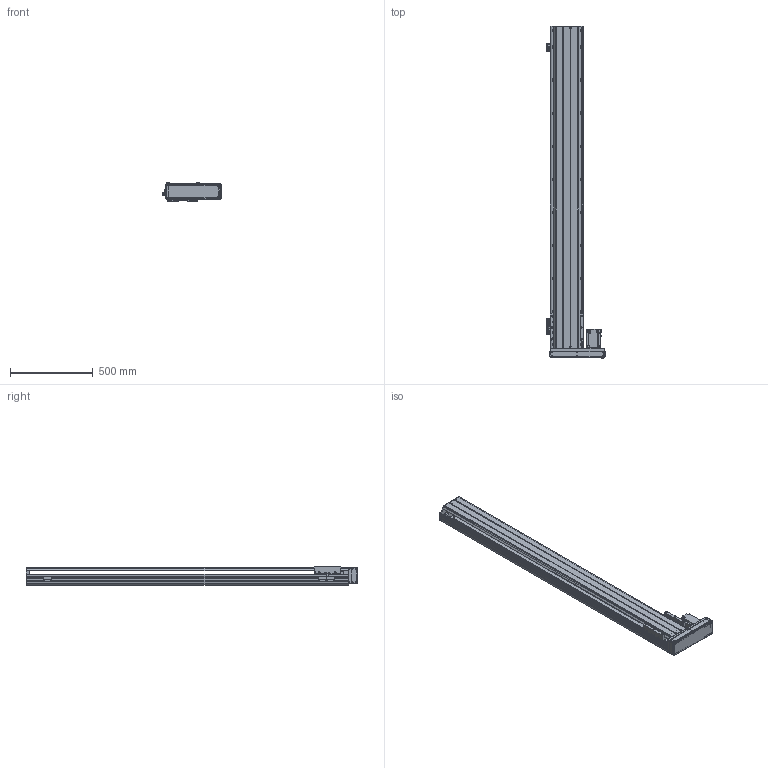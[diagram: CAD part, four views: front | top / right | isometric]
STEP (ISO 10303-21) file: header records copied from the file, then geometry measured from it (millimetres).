
FILE_DESCRIPTION(/* description */ ('MANUFACTURE'),/* implementation_level */ '2;1');
FILE_NAME(/* name */ '\\192.168.0.160\disk1\HAN SHIN Master\B-설계부문\C-표준\B-2024년\BC02-표준도면\+로봇 개선표준도면\홈페이지 표준 도면\홈페이지 최종 작업 폴더\3D\HR\HR200\HG200병렬\우병렬\HR200-R70-N-1700-L10.stp',/* time_stamp */ '2025-01-18T11:52:31+09:00',/* author */ ('user'),/* organization */ (''),/* preprocessor_version */ 'ST-DEVELOPER v18.1',/* originating_system */ 'Autodesk Inventor 2022',/* authorisation */ 'LIP');
FILE_SCHEMA (('AUTOMOTIVE_DESIGN { 1 0 10303 214 3 1 1 }'));
Products named in the file (19): HG200-L70-N-0500-R10; HR200 S BASE-개선; HR180 FRONT BLOCK; HR180 FRONT BLOCK_1; HR200 S UPCOVER; HR200 TABLE (W,N); 750W MOTOR PLATE; HG200 750W LR MOTOR PLATE-사출; hg-kr73_; 화살표; HR160 400W LR BELT COVER; HR200 ACRYL COVER -1; HR200 ACRYL COVER -1_1; HR200 ACRYL COVER -1_2; HG200 BOTTOM COVER; HR200 SENSOR DOG; SENSOR BRK(EE-SX674A); EE_SX674A; HR200 FRONT COVER
Assembly tree (24 placements, depth 2):
  HG200-L70-N-0500-R10
    HR200 S BASE-개선
    HR180 FRONT BLOCK
    HR180 FRONT BLOCK_1
    HR200 S UPCOVER
    HR200 TABLE (W,N)
    750W MOTOR PLATE
    HG200 750W LR MOTOR PLATE-사출
    hg-kr73_
    화살표  x2
    HR160 400W LR BELT COVER
    HR200 ACRYL COVER -1
    HR200 ACRYL COVER -1_1
    HR200 ACRYL COVER -1_2  x2
    HG200 BOTTOM COVER
    HR200 SENSOR DOG
    EE_SX674A  x3
    SENSOR BRK(EE-SX674A)  x3
    HR200 FRONT COVER
Bounding box: 351 x 2008 x 109 mm (x, y, z)
Volume: 11873169.3 mm3; surface area: 3223810.8 mm2
Topology: 24 solids, 24 shells, 3386 faces, 9607 edges, 6351 vertices
Faces by surface type: plane 2488, cylinder 764, cone 130, sphere 4
Full cylindrical faces by diameter (mm): 2.459 x50, 3 x10, 3.242 x18, 3.4 x20, 3.5 x6, 4 x6, 4.134 x10, 4.5 x14, 4.917 x30, 5 x20, 5.5 x5, 5.9 x4, 6 x6, 6.6 x24, 6.647 x32, 7 x4, 7.6 x4, 8 x4, 9 x34, 9.5 x1, 11 x24, 14 x22, 19 x1, 25 x1, 27 x1, 30 x1, 32 x1, 38 x1, 42 x2, 44.5 x1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
Entity records: 106552 total; most frequent: CARTESIAN_POINT 20595, ORIENTED_EDGE 17982, DIRECTION 16707, EDGE_CURVE 8991, LINE 7315, VECTOR 7315, VERTEX_POINT 6003, AXIS2_PLACEMENT_3D 4696
